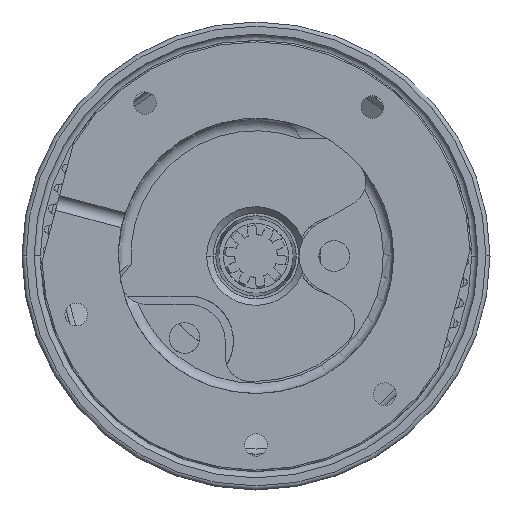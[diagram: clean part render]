
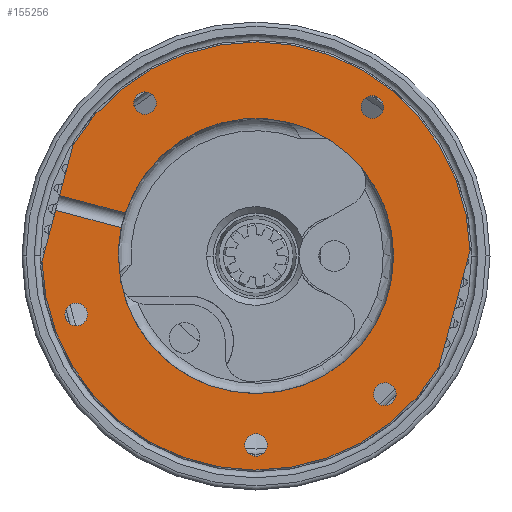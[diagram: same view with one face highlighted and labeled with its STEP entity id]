
A CAD part, front view. The second image highlights one B-rep face of the part: STEP entity #155256.
In plain terms, the highlighted planar face has unit normal (0, -1, 0).
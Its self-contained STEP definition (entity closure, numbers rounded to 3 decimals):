
#53690=CARTESIAN_POINT('',(0.,2.,0.));
#53691=DIRECTION('',(0.,-1.,0.));
#53692=DIRECTION('',(1.,0.,0.));
#53693=AXIS2_PLACEMENT_3D('',#53690,#53691,#53692);
#53695=DIRECTION('',(0.966,0.,-0.259));
#53696=VECTOR('',#53695,33.103);
#53697=CARTESIAN_POINT('',(-95.633,2.,29.464));
#53698=LINE('',#53697,#53696);
#53699=DIRECTION('',(0.966,0.,-0.259));
#53700=VECTOR('',#53699,33.103);
#53701=CARTESIAN_POINT('',(-97.552,2.,22.3));
#53702=LINE('',#53701,#53700);
#53703=CARTESIAN_POINT('',(0.,2.,0.));
#53704=DIRECTION('',(0.,-1.,0.));
#53705=DIRECTION('',(-0.979,0.,0.205));
#53706=AXIS2_PLACEMENT_3D('',#53703,#53704,#53705);
#53708=CARTESIAN_POINT('',(0.,2.,0.));
#53709=DIRECTION('',(0.,-1.,0.));
#53710=DIRECTION('',(-1.,0.,0.));
#53711=AXIS2_PLACEMENT_3D('',#53708,#53709,#53710);
#53713=CARTESIAN_POINT('',(0.,2.,-92.));
#53714=DIRECTION('',(0.,-1.,0.));
#53715=DIRECTION('',(-1.,0.,0.));
#53716=AXIS2_PLACEMENT_3D('',#53713,#53714,#53715);
#53718=CARTESIAN_POINT('',(0.,2.,-92.));
#53719=DIRECTION('',(0.,-1.,0.));
#53720=DIRECTION('',(1.,0.,0.));
#53721=AXIS2_PLACEMENT_3D('',#53718,#53719,#53720);
#53723=CARTESIAN_POINT('',(62.744,2.,-67.285));
#53724=DIRECTION('',(0.,-1.,0.));
#53725=DIRECTION('',(-0.731,0.,-0.682));
#53726=AXIS2_PLACEMENT_3D('',#53723,#53724,#53725);
#53728=CARTESIAN_POINT('',(62.744,2.,-67.285));
#53729=DIRECTION('',(0.,-1.,0.));
#53730=DIRECTION('',(0.731,0.,0.682));
#53731=AXIS2_PLACEMENT_3D('',#53728,#53729,#53730);
#53733=CARTESIAN_POINT('',(-87.497,2.,-28.43));
#53734=DIRECTION('',(0.,-1.,0.));
#53735=DIRECTION('',(-1.,0.,0.));
#53736=AXIS2_PLACEMENT_3D('',#53733,#53734,#53735);
#53738=CARTESIAN_POINT('',(-87.497,2.,-28.43));
#53739=DIRECTION('',(0.,-1.,0.));
#53740=DIRECTION('',(1.,0.,0.));
#53741=AXIS2_PLACEMENT_3D('',#53738,#53739,#53740);
#53743=CARTESIAN_POINT('',(-54.076,2.,74.43));
#53744=DIRECTION('',(0.,-1.,0.));
#53745=DIRECTION('',(-1.,0.,0.));
#53746=AXIS2_PLACEMENT_3D('',#53743,#53744,#53745);
#53748=CARTESIAN_POINT('',(-54.076,2.,74.43));
#53749=DIRECTION('',(0.,-1.,0.));
#53750=DIRECTION('',(1.,0.,0.));
#53751=AXIS2_PLACEMENT_3D('',#53748,#53749,#53750);
#53753=CARTESIAN_POINT('',(56.641,2.,72.497));
#53754=DIRECTION('',(0.,-1.,0.));
#53755=DIRECTION('',(-1.,0.,0.));
#53756=AXIS2_PLACEMENT_3D('',#53753,#53754,#53755);
#53758=CARTESIAN_POINT('',(56.641,2.,72.497));
#53759=DIRECTION('',(0.,-1.,0.));
#53760=DIRECTION('',(1.,0.,0.));
#53761=AXIS2_PLACEMENT_3D('',#53758,#53759,#53760);
#53768=DIRECTION('',(-0.259,0.,-0.966));
#53769=VECTOR('',#53768,25.755);
#53770=CARTESIAN_POINT('',(-97.552,2.,22.3));
#53771=LINE('',#53770,#53769);
#53790=CARTESIAN_POINT('',(-104.218,2.,-2.577));
#53844=CARTESIAN_POINT('',(-88.967,2.,54.341));
#53864=DIRECTION('',(-0.259,0.,-0.966));
#53865=VECTOR('',#53864,25.755);
#53866=CARTESIAN_POINT('',(-88.967,2.,54.341));
#53867=LINE('',#53866,#53865);
#53868=CARTESIAN_POINT('',(0.,2.,0.));
#53869=DIRECTION('',(0.,-1.,0.));
#53870=DIRECTION('',(-1.,0.,-0.025));
#53871=AXIS2_PLACEMENT_3D('',#53868,#53869,#53870);
#53926=DIRECTION('',(0.259,0.,0.966));
#53927=VECTOR('',#53926,58.926);
#53928=CARTESIAN_POINT('',(88.967,2.,-54.341));
#53929=LINE('',#53928,#53927);
#54099=CARTESIAN_POINT('',(0.,2.,0.));
#54100=DIRECTION('',(0.,-1.,0.));
#54101=DIRECTION('',(1.,0.,0.025));
#54102=AXIS2_PLACEMENT_3D('',#54099,#54100,#54101);
#71104=CARTESIAN_POINT('',(-5.5,2.,-92.));
#71105=CARTESIAN_POINT('',(5.5,2.,-92.));
#71106=VERTEX_POINT('',#71104);
#71107=VERTEX_POINT('',#71105);
#71150=CARTESIAN_POINT('',(-67.,2.,0.));
#71151=CARTESIAN_POINT('',(67.,2.,0.));
#71152=VERTEX_POINT('',#71150);
#71153=VERTEX_POINT('',#71151);
#71156=CARTESIAN_POINT('',(-63.658,2.,20.896));
#71157=VERTEX_POINT('',#71156);
#71158=CARTESIAN_POINT('',(-65.578,2.,13.733));
#71159=VERTEX_POINT('',#71158);
#71220=CARTESIAN_POINT('',(58.721,2.,-71.036));
#71221=CARTESIAN_POINT('',(66.766,2.,-63.534));
#71222=VERTEX_POINT('',#71220);
#71223=VERTEX_POINT('',#71221);
#71238=CARTESIAN_POINT('',(-92.997,2.,-28.43));
#71239=CARTESIAN_POINT('',(-81.997,2.,-28.43));
#71240=VERTEX_POINT('',#71238);
#71241=VERTEX_POINT('',#71239);
#71250=CARTESIAN_POINT('',(-59.576,2.,74.43));
#71251=CARTESIAN_POINT('',(-48.576,2.,74.43));
#71252=VERTEX_POINT('',#71250);
#71253=VERTEX_POINT('',#71251);
#71265=CARTESIAN_POINT('',(51.141,2.,72.497));
#71266=CARTESIAN_POINT('',(62.141,2.,72.497));
#71267=VERTEX_POINT('',#71265);
#71268=VERTEX_POINT('',#71266);
#71277=CARTESIAN_POINT('',(-97.552,2.,22.3));
#71278=VERTEX_POINT('',#71277);
#71279=CARTESIAN_POINT('',(-95.633,2.,29.464));
#71280=VERTEX_POINT('',#71279);
#71291=VERTEX_POINT('',#53844);
#71292=VERTEX_POINT('',#53790);
#71297=CARTESIAN_POINT('',(88.967,2.,-54.341));
#71298=CARTESIAN_POINT('',(104.218,2.,2.577));
#71299=VERTEX_POINT('',#71297);
#71300=VERTEX_POINT('',#71298);
#155201=CARTESIAN_POINT('',(0.,2.,0.));
#155202=DIRECTION('',(0.,1.,0.));
#155203=DIRECTION('',(0.,0.,-1.));
#155204=AXIS2_PLACEMENT_3D('',#155201,#155202,#155203);
#155205=PLANE('',#155204);
#155206=ORIENTED_EDGE('',*,*,#155173,.T.);
#155208=ORIENTED_EDGE('',*,*,#155207,.F.);
#155210=ORIENTED_EDGE('',*,*,#155209,.F.);
#155212=ORIENTED_EDGE('',*,*,#155211,.F.);
#155214=ORIENTED_EDGE('',*,*,#155213,.F.);
#155216=ORIENTED_EDGE('',*,*,#155215,.F.);
#155218=ORIENTED_EDGE('',*,*,#155217,.F.);
#155220=ORIENTED_EDGE('',*,*,#155219,.T.);
#155221=ORIENTED_EDGE('',*,*,#155194,.T.);
#155223=ORIENTED_EDGE('',*,*,#155222,.T.);
#155224=EDGE_LOOP('',(#155206,#155208,#155210,#155212,#155214,#155216,#155218,
#155220,#155221,#155223));
#155225=FACE_OUTER_BOUND('',#155224,.F.);
#155227=ORIENTED_EDGE('',*,*,#155226,.T.);
#155229=ORIENTED_EDGE('',*,*,#155228,.T.);
#155230=EDGE_LOOP('',(#155227,#155229));
#155231=FACE_BOUND('',#155230,.F.);
#155233=ORIENTED_EDGE('',*,*,#155232,.T.);
#155235=ORIENTED_EDGE('',*,*,#155234,.T.);
#155236=EDGE_LOOP('',(#155233,#155235));
#155237=FACE_BOUND('',#155236,.F.);
#155239=ORIENTED_EDGE('',*,*,#155238,.T.);
#155241=ORIENTED_EDGE('',*,*,#155240,.T.);
#155242=EDGE_LOOP('',(#155239,#155241));
#155243=FACE_BOUND('',#155242,.F.);
#155245=ORIENTED_EDGE('',*,*,#155244,.T.);
#155247=ORIENTED_EDGE('',*,*,#155246,.T.);
#155248=EDGE_LOOP('',(#155245,#155247));
#155249=FACE_BOUND('',#155248,.F.);
#155251=ORIENTED_EDGE('',*,*,#155250,.T.);
#155253=ORIENTED_EDGE('',*,*,#155252,.T.);
#155254=EDGE_LOOP('',(#155251,#155253));
#155255=FACE_BOUND('',#155254,.F.);
#155256=ADVANCED_FACE('',(#155225,#155231,#155237,#155243,#155249,#155255),
#155205,.F.);
#53694=CIRCLE('',#53693,67.);
#53707=CIRCLE('',#53706,67.);
#53712=CIRCLE('',#53711,67.);
#53717=CIRCLE('',#53716,5.5);
#53722=CIRCLE('',#53721,5.5);
#53727=CIRCLE('',#53726,5.5);
#53732=CIRCLE('',#53731,5.5);
#53737=CIRCLE('',#53736,5.5);
#53742=CIRCLE('',#53741,5.5);
#53747=CIRCLE('',#53746,5.5);
#53752=CIRCLE('',#53751,5.5);
#53757=CIRCLE('',#53756,5.5);
#53762=CIRCLE('',#53761,5.5);
#53872=CIRCLE('',#53871,104.25);
#54103=CIRCLE('',#54102,104.25);
#155173=EDGE_CURVE('',#71153,#71157,#53694,.T.);
#155194=EDGE_CURVE('',#71159,#71152,#53707,.T.);
#155207=EDGE_CURVE('',#71280,#71157,#53698,.T.);
#155209=EDGE_CURVE('',#71291,#71280,#53867,.T.);
#155211=EDGE_CURVE('',#71300,#71291,#54103,.T.);
#155213=EDGE_CURVE('',#71299,#71300,#53929,.T.);
#155215=EDGE_CURVE('',#71292,#71299,#53872,.T.);
#155217=EDGE_CURVE('',#71278,#71292,#53771,.T.);
#155219=EDGE_CURVE('',#71278,#71159,#53702,.T.);
#155222=EDGE_CURVE('',#71152,#71153,#53712,.T.);
#155226=EDGE_CURVE('',#71106,#71107,#53717,.T.);
#155228=EDGE_CURVE('',#71107,#71106,#53722,.T.);
#155232=EDGE_CURVE('',#71222,#71223,#53727,.T.);
#155234=EDGE_CURVE('',#71223,#71222,#53732,.T.);
#155238=EDGE_CURVE('',#71240,#71241,#53737,.T.);
#155240=EDGE_CURVE('',#71241,#71240,#53742,.T.);
#155244=EDGE_CURVE('',#71252,#71253,#53747,.T.);
#155246=EDGE_CURVE('',#71253,#71252,#53752,.T.);
#155250=EDGE_CURVE('',#71267,#71268,#53757,.T.);
#155252=EDGE_CURVE('',#71268,#71267,#53762,.T.);
